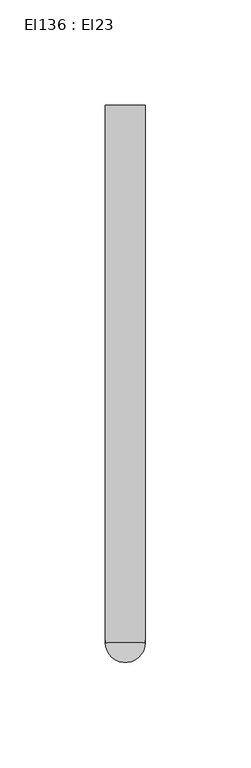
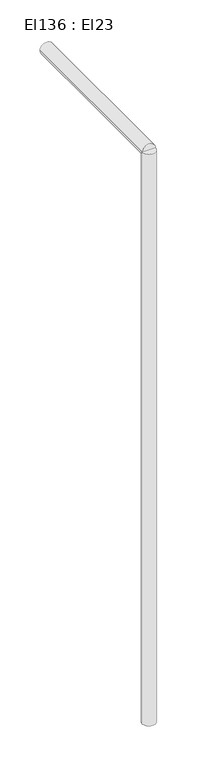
"""IFC4 building model written with IfcOpenShell, lengths in millimetres: cable carrier segment geometry, El136 : El23."""

from ifc_helpers import new_model, si_unit, point, frame, frame_2d, origin, place, context, project, spatial, circle_curve, trimmed, segment, composite_curve, outline, extrude, source, transform, mapped, element, save


def el136_el23_cfef5686(model_context):
    return source(origin(), model_context, "Body", "SweptSolid", [
        extrude(outline(composite_curve([segment(trimmed(circle_curve(frame_2d((114.4746511, 10091.7991745)), 9.5), [point((104.9746511, 10091.7991745))], [point((123.9746511, 10091.7991745))], False, "CARTESIAN"), True, "CONTINUOUS"), segment(trimmed(circle_curve(frame_2d((114.4746511, 10091.7991745)), 9.5), [point((123.9746511, 10091.7991745))], [point((104.9746511, 10091.7991745))], False, "CARTESIAN"), True, "CONTINUOUS")], self_intersect=False)), frame((0.0, 0.0, 1830.0), z_axis=(0.0, 0.0, 1.0), x_axis=(1.0, 0.0, 0.0)), (0.0, 0.0, 1.0), 870.0),
        extrude(outline(composite_curve([segment(trimmed(circle_curve(frame_2d((2700.0, 114.4746511)), 9.5), [point((2700.0, 104.9746511))], [point((2700.0, 123.9746511))], False, "CARTESIAN"), True, "CONTINUOUS"), segment(trimmed(circle_curve(frame_2d((2700.0, 114.4746511)), 9.5), [point((2700.0, 123.9746511))], [point((2700.0, 104.9746511))], False, "CARTESIAN"), True, "CONTINUOUS")], self_intersect=False)), frame((0.0, 10091.7991745, 0.0), z_axis=(0.0, 1.0, 0.0), x_axis=(0.0, 0.0, 1.0)), (0.0, 0.0, 1.0), 255.126),
    ])


if __name__ == "__main__":
    model = new_model("IFC4")
    model_context = context("Model", 3, world=origin())
    ifc_project = project(units=[si_unit("LENGTHUNIT", "METRE", prefix="MILLI")], contexts=[model_context])
    site = spatial("IfcSite", under=ifc_project)
    building = spatial("IfcBuilding", under=site)
    placement = place(None, origin())
    el136_el23_shape = el136_el23_cfef5686(model_context)
    element("IfcCableCarrierSegment", 1, ObjectType="El136 : El23", at=placement, inside=building, context=model_context, shape_type="MappedRepresentation", body=[
        mapped(el136_el23_shape, transform((0.0, 0.0, 0.0), x_axis=(1.0, 0.0, 0.0), y_axis=(0.0, 1.0, 0.0), z_axis=(0.0, 0.0, 1.0))),
    ])
    save(model, "model.ifc")
